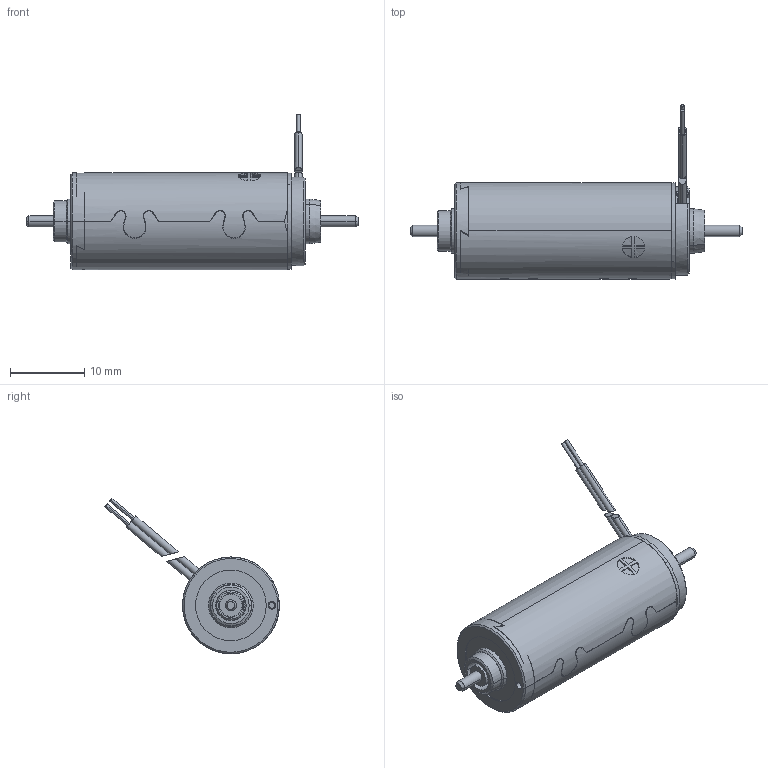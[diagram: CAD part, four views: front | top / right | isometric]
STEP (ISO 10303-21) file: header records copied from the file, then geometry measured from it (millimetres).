
FILE_DESCRIPTION((''),'2;1');
FILE_NAME('268351_RE-MAX13','2016-10-21T',('mmagpetk'),(''),'CREO PARAMETRIC BY PTC INC, 2016050','CREO PARAMETRIC BY PTC INC, 2016050','');
FILE_SCHEMA(('CONFIG_CONTROL_DESIGN'));
Length unit declared in the file: millimetre
Products named in the file (1): 268351_RE-MAX13
Bounding box: 44.6 x 23.45 x 20.89 mm (x, y, z)
Volume: 4230.4 mm3; surface area: 2087.5 mm2
Topology: 3 solids, 3 shells, 224 faces, 566 edges, 363 vertices
Faces by surface type: plane 100, cylinder 87, cone 25, torus 10, bspline 2
Entity records: 10128 total; most frequent: CARTESIAN_POINT 3009, ORIENTED_EDGE 1132, DIRECTION 1073, PRESENTATION_STYLE_ASSIGNMENT 568, STYLED_ITEM 568, CURVE_STYLE 566, EDGE_CURVE 566, AXIS2_PLACEMENT_3D 422
